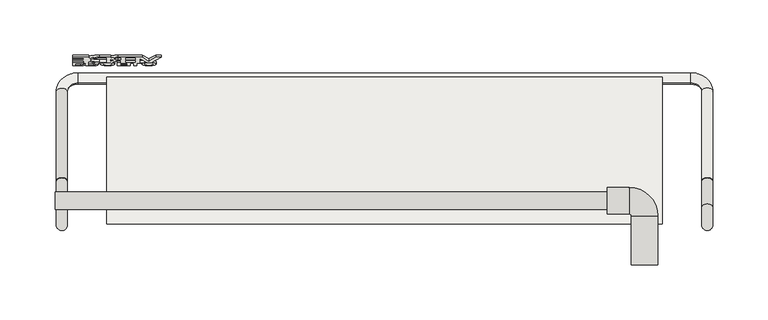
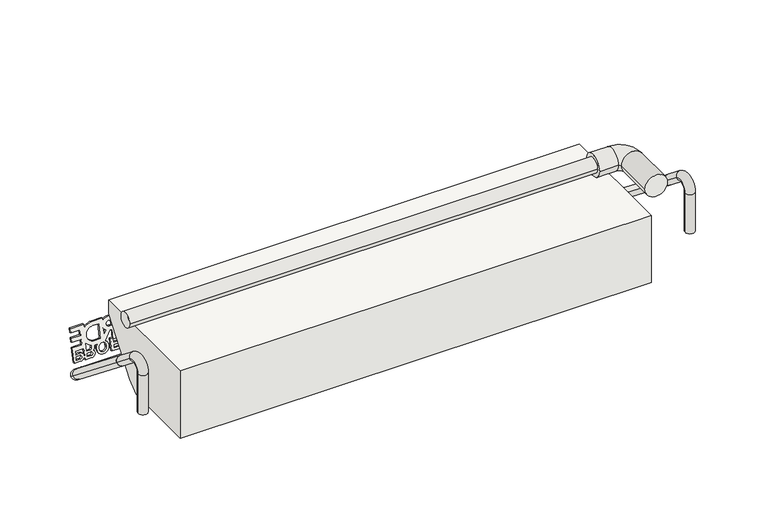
"""IFC4 building model written with IfcOpenShell, lengths in millimetres: covering geometry, panel VP Modulo prova ultima texture : panel VP Modulo prova ultima texture."""

from ifc_helpers import new_model, si_unit, point, frame, frame_2d, origin, place, context, project, spatial, polyline, circle_curve, ellipse_curve, trimmed, segment, composite_curve, outline, extrude, source, transform, mapped, element, save
from ifc_brep_helpers import plane_surface, cylinder_surface, revolved_surface, advanced_brep


def covering_4e535264(model_context):
    return source(origin(), model_context, "Body", "SolidModel", [
        extrude(outline(composite_curve([segment(polyline([(34.7220757, 1e-07), (58.7996812, 1e-07)]), True, "CONTINUOUS"), segment(trimmed(circle_curve(frame_2d((65.0642789, 0.6025231)), 6.293506), [point((58.7996812, 1e-07))], [point((63.4156114, 6.6762463))], False, "CARTESIAN"), True, "CONTINUOUS"), segment(trimmed(circle_curve(frame_2d((65.6666706, 0.6823429)), 6.4026671), [point((63.4156114, 6.6762463))], [point((68.2653756, -5.1692277))], False, "CARTESIAN"), True, "CONTINUOUS"), segment(trimmed(circle_curve(frame_2d((65.2033193, 0.2002614)), 6.1812298), [point((68.2653756, -5.1692277))], [point((64.2093265, -5.9005239))], False, "CARTESIAN"), True, "CONTINUOUS"), segment(polyline([(64.2093265, -5.9005239), (66.3168222, -11.0476865), (75.8016953, -7.1641235), (76.8622809, -9.7544045), (66.3136896, -14.0735049), (67.4636632, -16.8820993), (78.0122545, -12.5629989), (79.07284, -15.15328), (68.5242487, -19.4723803), (70.7348079, -24.8712558), (61.6931831, -28.5733316), (62.6270622, -30.8541559), (73.0748749, -33.0832315)]), True, "CONTINUOUS"), segment(trimmed(circle_curve(frame_2d((79.2445531, -34.0648778)), 6.247284), [point((73.0748749, -33.0832315))], [point((77.6263487, -28.0308102))], False, "CARTESIAN"), True, "CONTINUOUS"), segment(trimmed(circle_curve(frame_2d((79.8774079, -34.0247136)), 6.4026671), [point((77.6263487, -28.0308102))], [point((82.4790997, -39.8749568))], False, "CARTESIAN"), True, "CONTINUOUS"), segment(trimmed(circle_curve(frame_2d((79.4067187, -34.4842118)), 6.2048092), [point((82.4790997, -39.8749568))], [point((77.0112196, -40.2079554))], False, "CARTESIAN"), True, "CONTINUOUS"), segment(polyline([(77.0112196, -40.2079554), (78.1993614, -43.1097684)]), True, "CONTINUOUS"), segment(trimmed(circle_curve(frame_2d((66.5130173, -47.6019204)), 12.5199867), [point((78.1993614, -43.1097684))], [point((78.4709527, -43.8927629))], False, "CARTESIAN"), True, "CONTINUOUS"), segment(polyline([(78.4709527, -43.8927629), (79.5384705, -43.4513168)]), True, "CONTINUOUS"), segment(trimmed(circle_curve(frame_2d((81.1236563, -46.5289178)), 3.4618554), [point((79.5384705, -43.4513168))], [point((83.2640667, -43.8080566))], False, "CARTESIAN"), True, "CONTINUOUS"), segment(trimmed(circle_curve(frame_2d((86.9930545, -44.5041076)), 3.7933939), [point((83.2640667, -43.8080566))], [point((90.5427254, -43.1663205))], False, "CARTESIAN"), True, "CONTINUOUS"), segment(polyline([(90.5427254, -43.1663205), (93.2835773, -49.8603364), (82.734986, -54.1794368), (86.0955187, -62.3869066), (89.2825225, -61.0819941), (87.602256, -56.9782588)]), True, "CONTINUOUS"), segment(trimmed(circle_curve(frame_2d((91.2496311, -55.4763574)), 3.9444966), [point((87.602256, -56.9782588))], [point((87.6394876, -53.887044))], False, "CARTESIAN"), True, "CONTINUOUS"), segment(trimmed(circle_curve(frame_2d((91.0795376, -55.4029608)), 3.7592483), [point((87.6394876, -53.887044))], [point((89.8068056, -51.8657159))], False, "CARTESIAN"), True, "CONTINUOUS"), segment(trimmed(circle_curve(frame_2d((91.3826275, -55.3791794)), 3.8506675), [point((89.8068056, -51.8657159))], [point((94.9638436, -53.9640713))], False, "CARTESIAN"), True, "CONTINUOUS"), segment(polyline([(94.9638436, -53.9640713), (97.7046956, -60.6580873), (83.1186526, -66.6303145), (79.3291227, -57.3750995), (74.3249247, -59.4240587), (78.1144546, -68.6792737), (74.0770029, -70.3324005), (70.287473, -61.0771855), (65.283275, -63.1261447), (69.0728049, -72.3813597), (65.0353532, -74.0344865), (59.5536494, -60.6464546), (63.573194, -59.0006598)]), True, "CONTINUOUS"), segment(trimmed(circle_curve(frame_2d((67.4307017, -47.2531671)), 12.364625), [point((63.573194, -59.0006598))], [point((55.9786181, -51.9151122))], False, "CARTESIAN"), True, "CONTINUOUS"), segment(polyline([(55.9786181, -51.9151122), (51.9745895, -42.1360245), (54.8949193, -40.940301)]), True, "CONTINUOUS"), segment(trimmed(circle_curve(frame_2d((56.8950263, -33.2916254)), 7.9058629), [point((54.8949193, -40.940301))], [point((49.6285765, -36.4063284))], False, "CARTESIAN"), True, "CONTINUOUS"), segment(polyline([(49.6285765, -36.4063284), (41.306864, -16.0821087), (53.1289126, -4.45118), (36.5446028, -4.4511801), (34.7220757, 1e-07)]), True, "CONTINUOUS")], self_intersect=False), holes=[composite_curve([segment(polyline([(91.3698144, -60.2273564), (94.5568181, -58.9224439), (93.0429626, -55.2251362)]), True, "CONTINUOUS"), segment(trimmed(circle_curve(frame_2d((91.4494607, -55.8775925)), 1.7219023), [point((93.0429626, -55.2251362))], [point((89.8559588, -56.5300487))], True, "CARTESIAN"), True, "CONTINUOUS"), segment(polyline([(89.8559588, -56.5300487), (91.3698144, -60.2273564)]), True, "CONTINUOUS")], self_intersect=False), composite_curve([segment(polyline([(77.6536646, -53.2354383), (84.8614042, -50.2842432), (83.4804082, -46.9114198)]), True, "CONTINUOUS"), segment(trimmed(circle_curve(frame_2d((82.0055188, -47.9798171)), 1.8212006), [point((83.4804082, -46.9114198))], [point((81.4459172, -46.2467223))], True, "CARTESIAN"), True, "CONTINUOUS"), segment(polyline([(81.4459172, -46.2467223), (79.005401, -46.7813864)]), True, "CONTINUOUS"), segment(trimmed(circle_curve(frame_2d((66.800009, -47.5936694)), 12.2323913), [point((79.005401, -46.7813864))], [point((77.6536646, -53.2354383))], False, "CARTESIAN"), True, "CONTINUOUS")], self_intersect=False), composite_curve([segment(polyline([(80.0469884, -37.8463889), (81.818283, -37.1211357)]), True, "CONTINUOUS"), segment(trimmed(circle_curve(frame_2d((80.3714598, -33.8224141)), 3.6020635), [point((81.818283, -37.1211357))], [point((79.0874461, -30.4569764))], True, "CARTESIAN"), True, "CONTINUOUS"), segment(polyline([(79.0874461, -30.4569764), (77.318043, -31.1814551)]), True, "CONTINUOUS"), segment(trimmed(circle_curve(frame_2d((78.7640582, -34.4805345)), 3.6020668), [point((77.318043, -31.1814551))], [point((80.0469884, -37.8463889))], True, "CARTESIAN"), True, "CONTINUOUS")], self_intersect=False), composite_curve([segment(polyline([(64.8767089, 4.25008), (63.1073057, 3.5256013)]), True, "CONTINUOUS"), segment(trimmed(circle_curve(frame_2d((64.5533209, 0.2265218)), 3.6020668), [point((63.1073057, 3.5256013))], [point((65.8362511, -3.1393325))], True, "CARTESIAN"), True, "CONTINUOUS"), segment(polyline([(65.8362511, -3.1393325), (67.6075457, -2.4140793)]), True, "CONTINUOUS"), segment(trimmed(circle_curve(frame_2d((66.1607226, 0.8846424)), 3.6020635), [point((67.6075457, -2.4140793))], [point((64.8767089, 4.25008))], True, "CARTESIAN"), True, "CONTINUOUS")], self_intersect=False), composite_curve([segment(polyline([(49.3862171, -14.3776131), (62.966359, -8.8172502), (61.7031824, -5.7321785), (62.543491, -5.3881158)]), True, "CONTINUOUS"), segment(trimmed(circle_curve(frame_2d((65.2914897, 0.489271)), 6.4880792), [point((62.543491, -5.3881158))], [point((60.2929854, -3.647168))], False, "CARTESIAN"), True, "CONTINUOUS"), segment(polyline([(60.2929854, -3.647168), (49.3862171, -14.3776131)]), True, "CONTINUOUS")], self_intersect=False), polyline([(47.5988019, -19.9351411), (50.9593346, -28.1426109), (55.9635327, -26.0936517), (52.603, -17.8861818), (47.5988019, -19.9351411)]), polyline([(60.0009843, -24.4405249), (65.0051824, -22.3915657), (61.6446497, -14.1840958), (56.6404516, -16.2330551), (60.0009843, -24.4405249)]), composite_curve([segment(polyline([(52.6514048, -32.2754702), (53.692025, -34.8169896)]), True, "CONTINUOUS"), segment(trimmed(circle_curve(frame_2d((56.226554, -33.8697215)), 2.7057631), [point((53.692025, -34.8169896))], [point((58.6823171, -32.7337722))], True, "CARTESIAN"), True, "CONTINUOUS"), segment(polyline([(58.6823171, -32.7337722), (57.6557065, -30.2264686), (52.6514048, -32.2754702)]), True, "CONTINUOUS")], self_intersect=False), composite_curve([segment(polyline([(62.0018449, -38.0303841), (66.4600603, -36.2049764), (63.0935891, -35.4866796)]), True, "CONTINUOUS"), segment(trimmed(circle_curve(frame_2d((53.8245828, -33.0146099)), 9.5929977), [point((63.0935891, -35.4866796))], [point((62.0018449, -38.0303841))], False, "CARTESIAN"), True, "CONTINUOUS")], self_intersect=False), composite_curve([segment(polyline([(57.7042151, -44.6157146), (60.0160697, -50.2619853)]), True, "CONTINUOUS"), segment(trimmed(circle_curve(frame_2d((67.1061304, -47.5504315)), 7.5908816), [point((60.0160697, -50.2619853))], [point((74.0619175, -44.51094))], True, "CARTESIAN"), True, "CONTINUOUS"), segment(polyline([(74.0619175, -44.51094), (71.7500629, -38.8646693), (57.7042151, -44.6157146)]), True, "CONTINUOUS")], self_intersect=False), composite_curve([segment(polyline([(86.9486961, -49.4296056), (90.1356999, -48.124693), (88.6218444, -44.4273853)]), True, "CONTINUOUS"), segment(trimmed(circle_curve(frame_2d((87.0283424, -45.0798416)), 1.7219023), [point((88.6218444, -44.4273853))], [point((85.4348406, -45.7322979))], True, "CARTESIAN"), True, "CONTINUOUS"), segment(polyline([(85.4348406, -45.7322979), (86.9486961, -49.4296056)]), True, "CONTINUOUS")], self_intersect=False)]), frame((-189.083657, 210.3688908, 352.3284791), z_axis=(0.0, -0.9769248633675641, 0.21358326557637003), x_axis=(-0.3789159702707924, -0.19765659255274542, -0.9040766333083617)), (0.0, 0.0, 1.0), 2.0),
        extrude(outline(polyline([(76.2116946, -23.2064962), (79.3986984, -21.9015837), (77.1881392, -16.5027082), (79.2754311, -15.6480706), (82.5465758, -23.6372272), (70.9744162, -28.3754256), (69.9138306, -25.7851445), (74.1244027, -24.0611338), (71.9138436, -18.6622584), (74.0011355, -17.8076208), (76.2116946, -23.2064962)])), frame((-189.083657, 210.3688908, 352.3284791), z_axis=(0.0, -0.9769248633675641, 0.21358326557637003), x_axis=(-0.3789159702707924, -0.19765659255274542, -0.9040766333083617)), (0.0, 0.0, 1.0), 2.0),
        advanced_brep(
        [(-298.2404059, 63.5015434, 416.038463), (-298.2404059, 79.5015434, 416.038463), (201.5404059, 63.5015434, 416.038463), (201.5404059, 79.5015434, 416.038463), (201.5404059, 59.5015434, 416.038463), (201.5404059, 83.5015434, 416.038463), (221.5404059, 59.5015434, 416.038463), (221.5404059, 83.5015434, 416.038463), (223.5404059, 57.5015434, 416.038463), (247.5404059, 57.5015434, 416.038463), (223.5404059, 13.5015434, 416.038463), (247.5404059, 13.5015434, 416.038463)],
        [
            (0, 1, circle_curve(frame((-298.2404059, 71.5015434, 416.038463), z_axis=(-1.0, 0.0, 0.0), x_axis=(0.0, 1.0, 0.0)), 8.0)),
            (1, 0, circle_curve(frame((-298.2404059, 71.5015434, 416.038463), z_axis=(-1.0, 0.0, 0.0), x_axis=(0.0, 1.0, 0.0)), 8.0)),
            (0, 2),
            (2, 3, circle_curve(frame((201.5404059, 71.5015434, 416.038463), z_axis=(-1.0, 0.0, 0.0), x_axis=(0.0, 1.0, 0.0)), 8.0)),
            (3, 1),
            (3, 2, circle_curve(frame((201.5404059, 71.5015434, 416.038463), z_axis=(-1.0, 0.0, 0.0), x_axis=(0.0, 1.0, 0.0)), 8.0)),
            (4, 5, circle_curve(frame((201.5404059, 71.5015434, 416.038463), z_axis=(-1.0, 0.0, 0.0), x_axis=(0.0, 1.0, 0.0)), 12.0)),
            (5, 4, circle_curve(frame((201.5404059, 71.5015434, 416.038463), z_axis=(-1.0, 0.0, 0.0), x_axis=(0.0, 1.0, 0.0)), 12.0)),
            (4, 6),
            (6, 7, circle_curve(frame((221.5404059, 71.5015434, 416.038463), z_axis=(-1.0, 0.0, 0.0), x_axis=(0.0, 1.0, 0.0)), 12.0)),
            (7, 5),
            (7, 6, circle_curve(frame((221.5404059, 71.5015434, 416.038463), z_axis=(-1.0, 0.0, 0.0), x_axis=(0.0, 1.0, 0.0)), 12.0)),
            (6, 8, circle_curve(frame((221.5404059, 57.5015434, 416.038463), z_axis=(0.0, 0.0, -1.0), x_axis=(0.0, 1.0, 0.0)), 2.0)),
            (8, 9, circle_curve(frame((235.5404059, 57.5015434, 416.038463), z_axis=(0.0, 1.0, 0.0), x_axis=(1.0, 0.0, 0.0)), 12.0)),
            (9, 7, circle_curve(frame((221.5404059, 57.5015434, 416.038463), z_axis=(0.0, 0.0, 1.0), x_axis=(0.0, 1.0, 0.0)), 26.0)),
            (9, 8, circle_curve(frame((235.5404059, 57.5015434, 416.038463), z_axis=(0.0, 1.0, 0.0), x_axis=(1.0, 0.0, 0.0)), 12.0)),
            (10, 11, circle_curve(frame((235.5404059, 13.5015434, 416.038463), z_axis=(0.0, -1.0, 0.0), x_axis=(1.0, 0.0, 0.0)), 12.0)),
            (11, 10, circle_curve(frame((235.5404059, 13.5015434, 416.038463), z_axis=(0.0, -1.0, 0.0), x_axis=(1.0, 0.0, 0.0)), 12.0)),
            (8, 10),
            (11, 9),
        ],
        [
            plane_surface(frame((-298.2404059, 63.5015434, 416.038463), z_axis=(-1.0, 0.0, 0.0), x_axis=(0.0, 0.0, 1.0))),
            cylinder_surface(frame((-298.2404059, 71.5015434, 416.038463), z_axis=(-1.0, 0.0, 0.0), x_axis=(0.0, 1.0, 0.0)), 8.0),
            plane_surface(frame((201.5404059, 63.5015434, 416.038463), z_axis=(-1.0, 0.0, 0.0), x_axis=(0.0, 0.0, 1.0))),
            cylinder_surface(frame((201.5404059, 71.5015434, 416.038463), z_axis=(-1.0, 0.0, 0.0), x_axis=(0.0, 1.0, 0.0)), 12.0),
            revolved_surface(trimmed(ellipse_curve(frame((221.5404059, 71.5015434, 416.038463), z_axis=(-1.0, 0.0, 0.0), x_axis=(0.0, 1.0, 0.0)), 12.0, 12.0), [point((221.5404059, 59.5015434, 416.038463))], [point((221.5404059, 83.5015434, 416.038463))], True, "CARTESIAN"), (221.5404059, 57.5015434, 416.038463), (0.0, 0.0, -1.0)),
            revolved_surface(trimmed(ellipse_curve(frame((221.5404059, 71.5015434, 416.038463), z_axis=(-1.0, 0.0, 0.0), x_axis=(0.0, 1.0, 0.0)), 12.0, 12.0), [point((221.5404059, 83.5015434, 416.038463))], [point((221.5404059, 59.5015434, 416.038463))], True, "CARTESIAN"), (221.5404059, 57.5015434, 416.038463), (0.0, 0.0, -1.0)),
            plane_surface(frame((227.5404059, 13.5015434, 416.038463), z_axis=(0.0, -1.0, 0.0), x_axis=(0.0, 0.0, 1.0))),
            cylinder_surface(frame((235.5404059, 57.5015434, 416.038463), z_axis=(0.0, 1.0, 0.0), x_axis=(1.0, 0.0, 0.0)), 12.0),
        ],
        [
            (0, [[1, 2]]),
            (1, [[-1, 3, 4, 5]]),
            (1, [[-2, -5, 6, -3]]),
            (2, [[7, 8], [-4, -6]]),
            (3, [[-7, 9, 10, 11]]),
            (3, [[-8, -11, 12, -9]]),
            (4, [[-10, 13, 14, 15]]),
            (5, [[-12, -15, 16, -13]]),
            (6, [[17, 18]]),
            (7, [[-14, 19, -18, 20]]),
            (7, [[-16, -20, -17, -19]]),
        ],
    ),
        advanced_brep(
        [(297.2404059, 89.2250572, 356.8404048), (287.2404059, 89.2251428, 356.8405128), (297.2404059, 170.6491384, 292.3205598), (287.2404059, 170.6492239, 292.3206678), (277.2404059, 178.4869122, 286.1101411), (277.2404059, 186.324515, 279.8995064), (-277.2404059, 186.324515, 279.8995064), (-277.2404059, 178.4869122, 286.1101411), (-287.2404059, 170.6492239, 292.3206678), (-297.2404059, 170.6491384, 292.3205598), (-297.2404059, 89.2250494, 356.840411), (-287.2404059, 89.225135, 356.840519)],
        [
            (0, 1, circle_curve(frame((292.2404059, 89.2250572, 356.8404048), z_axis=(0.0, -0.7837688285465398, 0.6210526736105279), x_axis=(1.0, 0.0, 0.0)), 5.0)),
            (1, 0, circle_curve(frame((292.2404059, 89.2250572, 356.8404048), z_axis=(0.0, -0.7837688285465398, 0.6210526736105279), x_axis=(1.0, 0.0, 0.0)), 5.0)),
            (0, 2),
            (2, 3, circle_curve(frame((292.2404059, 170.6491384, 292.3205598), z_axis=(0.0, -0.7837688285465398, 0.6210526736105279), x_axis=(1.0, 0.0, 0.0)), 5.0)),
            (3, 1),
            (3, 2, circle_curve(frame((292.2404059, 170.6491384, 292.3205598), z_axis=(0.0, -0.7837688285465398, 0.6210526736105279), x_axis=(1.0, 0.0, 0.0)), 5.0)),
            (4, 3, circle_curve(frame((277.2404059, 170.6492239, 292.3206678), z_axis=(0.0, -0.6210526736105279, -0.7837688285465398), x_axis=(1.0, 0.0, 0.0)), 10.0)),
            (2, 5, circle_curve(frame((277.2404059, 170.6491384, 292.3205598), z_axis=(0.0, 0.6210526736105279, 0.7837688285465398), x_axis=(1.0, 0.0, 0.0)), 20.0)),
            (5, 4, circle_curve(frame((277.2404059, 182.4056708, 283.0047697), z_axis=(1.0, 0.0, 0.0), x_axis=(0.0, 0.7837688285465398, -0.6210526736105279)), 5.0)),
            (4, 5, circle_curve(frame((277.2404059, 182.4056708, 283.0047697), z_axis=(1.0, 0.0, 0.0), x_axis=(0.0, 0.7837688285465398, -0.6210526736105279)), 5.0)),
            (5, 6),
            (6, 7, circle_curve(frame((-277.2404059, 182.4056708, 283.0047697), z_axis=(1.0, 0.0, 0.0), x_axis=(0.0, 0.7837688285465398, -0.6210526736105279)), 5.0)),
            (7, 4),
            (7, 6, circle_curve(frame((-277.2404059, 182.4056708, 283.0047697), z_axis=(1.0, 0.0, 0.0), x_axis=(0.0, 0.7837688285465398, -0.6210526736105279)), 5.0)),
            (8, 7, circle_curve(frame((-277.2404059, 170.6492239, 292.3206678), z_axis=(0.0, -0.6210526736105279, -0.7837688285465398), x_axis=(0.0, 0.7837688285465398, -0.6210526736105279)), 10.0)),
            (6, 9, circle_curve(frame((-277.2404059, 170.6491384, 292.3205598), z_axis=(0.0, 0.6210526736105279, 0.7837688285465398), x_axis=(0.0, 0.7837688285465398, -0.6210526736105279)), 20.0)),
            (9, 8, circle_curve(frame((-292.2404059, 170.6491384, 292.3205598), z_axis=(0.0, 0.7837688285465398, -0.6210526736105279), x_axis=(-1.0000000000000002, 0.0, 0.0)), 5.0)),
            (8, 9, circle_curve(frame((-292.2404059, 170.6491384, 292.3205598), z_axis=(0.0, 0.7837688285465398, -0.6210526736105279), x_axis=(-1.0000000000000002, 0.0, 0.0)), 5.0)),
            (10, 11, circle_curve(frame((-292.2404059, 89.2250494, 356.840411), z_axis=(0.0, -0.7837688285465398, 0.6210526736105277), x_axis=(-1.0, 0.0, 0.0)), 5.0)),
            (11, 10, circle_curve(frame((-292.2404059, 89.2250494, 356.840411), z_axis=(0.0, -0.7837688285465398, 0.6210526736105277), x_axis=(-1.0, 0.0, 0.0)), 5.0)),
            (9, 10),
            (11, 8),
        ],
        [
            plane_surface(frame((287.2404059, 92.3304015, 360.7593511), z_axis=(0.0, -0.7837688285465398, 0.6210526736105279), x_axis=(0.0, -0.6210526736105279, -0.7837688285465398))),
            cylinder_surface(frame((292.2404059, 89.2250572, 356.8404048), z_axis=(0.0, -0.7837688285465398, 0.6210526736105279), x_axis=(1.0, 0.0, 0.0)), 5.0),
            revolved_surface(trimmed(ellipse_curve(frame((292.2404059, 170.6491384, 292.3205598), z_axis=(0.0, -0.7837688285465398, 0.6210526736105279), x_axis=(1.0, 0.0, 0.0)), 5.0, 5.0), [point((297.2404059, 170.6491384, 292.3205598))], [point((287.2404059, 170.6492239, 292.3206678))], True, "CARTESIAN"), (277.2404059, 173.7544827, 296.2395061), (0.0, 0.6210526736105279, 0.7837688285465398)),
            revolved_surface(trimmed(ellipse_curve(frame((292.2404059, 170.6491384, 292.3205598), z_axis=(0.0, -0.7837688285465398, 0.6210526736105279), x_axis=(1.0, 0.0, 0.0)), 5.0, 5.0), [point((287.2404059, 170.6492239, 292.3206678))], [point((297.2404059, 170.6491384, 292.3205598))], True, "CARTESIAN"), (277.2404059, 173.7544827, 296.2395061), (0.0, 0.6210526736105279, 0.7837688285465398)),
            cylinder_surface(frame((277.2404059, 182.4056708, 283.0047697), z_axis=(1.0000000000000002, 0.0, 0.0), x_axis=(0.0, 0.7837688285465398, -0.6210526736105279)), 5.0),
            revolved_surface(trimmed(ellipse_curve(frame((-277.2404059, 182.4056708, 283.0047697), z_axis=(1.0000000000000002, 0.0, 0.0), x_axis=(0.0, 0.7837688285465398, -0.6210526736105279)), 5.0, 5.0), [point((-277.2404059, 186.324515, 279.8995064))], [point((-277.2404059, 178.4869122, 286.1101411))], True, "CARTESIAN"), (-277.2404059, 173.7544827, 296.2395061), (0.0, 0.6210526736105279, 0.7837688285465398)),
            revolved_surface(trimmed(ellipse_curve(frame((-277.2404059, 182.4056708, 283.0047697), z_axis=(1.0000000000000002, 0.0, 0.0), x_axis=(0.0, 0.7837688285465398, -0.6210526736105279)), 5.0, 5.0), [point((-277.2404059, 178.4869122, 286.1101411))], [point((-277.2404059, 186.324515, 279.8995064))], True, "CARTESIAN"), (-277.2404059, 173.7544827, 296.2395061), (0.0, 0.6210526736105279, 0.7837688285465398)),
            plane_surface(frame((-287.2404059, 92.3303937, 360.7593573), z_axis=(0.0, -0.7837688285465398, 0.6210526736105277), x_axis=(0.0, -0.6210526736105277, -0.7837688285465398))),
            cylinder_surface(frame((-292.2404059, 170.6491384, 292.3205598), z_axis=(0.0, 0.7837688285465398, -0.6210526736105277), x_axis=(-1.0, 0.0, 0.0)), 5.0),
        ],
        [
            (0, [[1, 2]]),
            (1, [[-1, 3, 4, 5]]),
            (1, [[-2, -5, 6, -3]]),
            (2, [[7, -4, 8, 9]]),
            (3, [[-8, -6, -7, 10]]),
            (4, [[-9, 11, 12, 13]]),
            (4, [[-10, -13, 14, -11]]),
            (5, [[15, -12, 16, 17]]),
            (6, [[-16, -14, -15, 18]]),
            (7, [[19, 20]]),
            (8, [[-17, 21, -20, 22]]),
            (8, [[-18, -22, -19, -21]]),
        ],
    ),
        advanced_brep(
        [(-287.2404059, 89.225135, 356.840519), (-297.2404059, 89.225135, 356.840519), (-297.2404059, 65.7120701, 375.4720992), (-287.2404059, 65.7120701, 375.4720992), (-287.2404059, 49.5015434, 367.6344109), (-297.2404059, 49.5015434, 367.6344109), (-287.2404059, 49.5015434, 323.3322656), (-297.2404059, 49.5015434, 323.3322656)],
        [
            (0, 1, circle_curve(frame((-292.2404059, 89.225135, 356.840519), z_axis=(0.0, 0.7837688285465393, -0.6210526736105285), x_axis=(-1.0, 0.0, 0.0)), 5.0)),
            (1, 0, circle_curve(frame((-292.2404059, 89.225135, 356.840519), z_axis=(0.0, 0.7837688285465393, -0.6210526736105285), x_axis=(-1.0, 0.0, 0.0)), 5.0)),
            (1, 2),
            (2, 3, circle_curve(frame((-292.2404059, 65.7120701, 375.4720992), z_axis=(0.0, 0.7837688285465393, -0.6210526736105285), x_axis=(-1.0, 0.0, 0.0)), 5.0)),
            (3, 0),
            (3, 2, circle_curve(frame((-292.2404059, 65.7120701, 375.4720992), z_axis=(0.0, 0.7837688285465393, -0.6210526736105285), x_axis=(-1.0, 0.0, 0.0)), 5.0)),
            (4, 3, circle_curve(frame((-287.2404059, 59.5015434, 367.6344109), z_axis=(-1.0, 0.0, 0.0), x_axis=(0.0, 0.6210526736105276, 0.78376882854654)), 10.0)),
            (2, 5, circle_curve(frame((-297.2404059, 59.5015434, 367.6344109), z_axis=(1.0, 0.0, 0.0), x_axis=(0.0, 0.6210526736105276, 0.78376882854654)), 10.0)),
            (5, 4, circle_curve(frame((-292.2404059, 49.5015434, 367.6344109), z_axis=(0.0, 0.0, 1.0), x_axis=(-1.0, 0.0, 0.0)), 5.0)),
            (4, 5, circle_curve(frame((-292.2404059, 49.5015434, 367.6344109), z_axis=(0.0, 0.0, 1.0), x_axis=(-1.0, 0.0, 0.0)), 5.0)),
            (6, 7, circle_curve(frame((-292.2404059, 49.5015434, 323.3322656), z_axis=(0.0, 0.0, -1.0), x_axis=(-1.0, 0.0, 0.0)), 5.0)),
            (7, 6, circle_curve(frame((-292.2404059, 49.5015434, 323.3322656), z_axis=(0.0, 0.0, -1.0), x_axis=(-1.0, 0.0, 0.0)), 5.0)),
            (5, 7),
            (6, 4),
        ],
        [
            plane_surface(frame((-287.2404059, 89.225135, 356.840519), z_axis=(0.0, 0.7837688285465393, -0.6210526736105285), x_axis=(-1.0, 0.0, 0.0))),
            cylinder_surface(frame((-292.2404059, 89.225135, 356.840519), z_axis=(0.0, 0.7837688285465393, -0.6210526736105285), x_axis=(-1.0, 0.0, 0.0)), 5.0),
            revolved_surface(trimmed(ellipse_curve(frame((-292.2404059, 65.7120701, 375.4720992), z_axis=(0.0, 0.78376882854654, -0.6210526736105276), x_axis=(-1.0, 0.0, 0.0)), 5.0, 5.0), [point((-297.2404059, 65.7120701, 375.4720992))], [point((-287.2404059, 65.7120701, 375.4720992))], True, "CARTESIAN"), (-287.2404059, 59.5015434, 367.6344109), (1.0, 0.0, 0.0)),
            revolved_surface(trimmed(ellipse_curve(frame((-292.2404059, 65.7120701, 375.4720992), z_axis=(0.0, 0.78376882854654, -0.6210526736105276), x_axis=(-1.0, 0.0, 0.0)), 5.0, 5.0), [point((-287.2404059, 65.7120701, 375.4720992))], [point((-297.2404059, 65.7120701, 375.4720992))], True, "CARTESIAN"), (-287.2404059, 59.5015434, 367.6344109), (1.0, 0.0, 0.0)),
            plane_surface(frame((-287.2404059, 49.5015434, 323.3322656), z_axis=(0.0, 0.0, -1.0), x_axis=(-1.0, 0.0, 0.0))),
            cylinder_surface(frame((-292.2404059, 49.5015434, 367.6344109), z_axis=(0.0, 0.0, 1.0), x_axis=(-1.0, 0.0, 0.0)), 5.0),
        ],
        [
            (0, [[1, 2]]),
            (1, [[-2, 3, 4, 5]]),
            (1, [[-1, -5, 6, -3]]),
            (2, [[7, -4, 8, 9]]),
            (3, [[-8, -6, -7, 10]]),
            (4, [[11, 12]]),
            (5, [[-9, 13, -11, 14]]),
            (5, [[-10, -14, -12, -13]]),
        ],
    ),
        advanced_brep(
        [(287.2404059, 89.2251242, 356.8404893), (297.2404059, 89.2251242, 356.8404893), (287.2404059, 65.7120779, 375.472093), (297.2404059, 65.7120779, 375.472093), (297.2404059, 49.5015434, 367.6344109), (287.2404059, 49.5015434, 367.6344109), (287.2404059, 49.5015434, 323.3322656), (297.2404059, 49.5015434, 323.3322656)],
        [
            (0, 1, circle_curve(frame((292.2404059, 89.2251242, 356.8404893), z_axis=(0.0, 0.7837682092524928, -0.621053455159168), x_axis=(1.0, 0.0, 0.0)), 5.0)),
            (1, 0, circle_curve(frame((292.2404059, 89.2251242, 356.8404893), z_axis=(0.0, 0.7837682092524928, -0.621053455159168), x_axis=(1.0, 0.0, 0.0)), 5.0)),
            (0, 2),
            (2, 3, circle_curve(frame((292.2404059, 65.7120779, 375.472093), z_axis=(0.0, 0.7837682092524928, -0.621053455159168), x_axis=(1.0, 0.0, 0.0)), 5.0)),
            (3, 1),
            (3, 2, circle_curve(frame((292.2404059, 65.7120779, 375.472093), z_axis=(0.0, 0.7837682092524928, -0.621053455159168), x_axis=(1.0, 0.0, 0.0)), 5.0)),
            (4, 3, circle_curve(frame((297.2404059, 59.5015434, 367.6344109), z_axis=(-1.0, 0.0, 0.0), x_axis=(0.0, 0.6210534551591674, 0.7837682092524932)), 10.0)),
            (2, 5, circle_curve(frame((287.2404059, 59.5015434, 367.6344109), z_axis=(1.0, 0.0, 0.0), x_axis=(0.0, 0.6210534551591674, 0.7837682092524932)), 10.0)),
            (5, 4, circle_curve(frame((292.2404059, 49.5015434, 367.6344109), z_axis=(0.0, 0.0, 1.0), x_axis=(1.0, 0.0, 0.0)), 5.0)),
            (4, 5, circle_curve(frame((292.2404059, 49.5015434, 367.6344109), z_axis=(0.0, 0.0, 1.0), x_axis=(1.0, 0.0, 0.0)), 5.0)),
            (6, 7, circle_curve(frame((292.2404059, 49.5015434, 323.3322656), z_axis=(0.0, 0.0, -1.0), x_axis=(1.0, 0.0, 0.0)), 5.0)),
            (7, 6, circle_curve(frame((292.2404059, 49.5015434, 323.3322656), z_axis=(0.0, 0.0, -1.0), x_axis=(1.0, 0.0, 0.0)), 5.0)),
            (5, 6),
            (7, 4),
        ],
        [
            plane_surface(frame((287.2404059, 89.2251242, 356.8404893), z_axis=(0.0, 0.7837682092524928, -0.621053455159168), x_axis=(1.0, 0.0, 0.0))),
            cylinder_surface(frame((292.2404059, 89.2251242, 356.8404893), z_axis=(0.0, 0.7837682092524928, -0.621053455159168), x_axis=(1.0, 0.0, 0.0)), 5.0),
            revolved_surface(trimmed(ellipse_curve(frame((292.2404059, 65.7120779, 375.472093), z_axis=(0.0, 0.7837682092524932, -0.6210534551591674), x_axis=(1.0, 0.0, 0.0)), 5.0, 5.0), [point((287.2404059, 65.7120779, 375.472093))], [point((297.2404059, 65.7120779, 375.472093))], True, "CARTESIAN"), (287.2404059, 59.5015434, 367.6344109), (1.0, 0.0, 0.0)),
            revolved_surface(trimmed(ellipse_curve(frame((292.2404059, 65.7120779, 375.472093), z_axis=(0.0, 0.7837682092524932, -0.6210534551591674), x_axis=(1.0, 0.0, 0.0)), 5.0, 5.0), [point((297.2404059, 65.7120779, 375.472093))], [point((287.2404059, 65.7120779, 375.472093))], True, "CARTESIAN"), (287.2404059, 59.5015434, 367.6344109), (1.0, 0.0, 0.0)),
            plane_surface(frame((287.2404059, 49.5015434, 323.3322656), z_axis=(0.0, 0.0, -1.0), x_axis=(1.0, 0.0, 0.0))),
            cylinder_surface(frame((292.2404059, 49.5015434, 367.6344109), z_axis=(0.0, 0.0, 1.0), x_axis=(1.0, 0.0, 0.0)), 5.0),
        ],
        [
            (0, [[1, 2]]),
            (1, [[-1, 3, 4, 5]]),
            (1, [[-2, -5, 6, -3]]),
            (2, [[7, -4, 8, 9]]),
            (3, [[-8, -6, -7, 10]]),
            (4, [[11, 12]]),
            (5, [[-9, 13, -12, 14]]),
            (5, [[-10, -14, -11, -13]]),
        ],
    ),
        extrude(outline(polyline([(132.1625373, 278.3787994), (50.5015434, 278.3787994), (50.5015434, 354.3787994), (183.4941844, 354.3787994), (183.4941844, 338.7120762), (143.8388149, 288.666981), (132.1625373, 278.3787994)])), frame((-251.5404059, 0.0, 0.0), z_axis=(1.0, 0.0, 0.0), x_axis=(0.0, 1.0, 0.0)), (0.0, 0.0, 1.0), 503.0808119),
    ])


if __name__ == "__main__":
    model = new_model("IFC4")
    model_context = context("Model", 3, world=origin())
    ifc_project = project(units=[si_unit("LENGTHUNIT", "METRE", prefix="MILLI")], contexts=[model_context])
    site = spatial("IfcSite", under=ifc_project)
    building = spatial("IfcBuilding", under=site)
    placement = place(None, origin())
    covering_shape = covering_4e535264(model_context)
    element("IfcCovering", 1, ObjectType="panel VP Modulo prova ultima texture : panel VP Modulo prova ultima texture", at=placement, inside=building, context=model_context, shape_type="MappedRepresentation", body=[
        mapped(covering_shape, transform((0.0, 0.0, 0.0), x_axis=(1.0, 0.0, 0.0), y_axis=(0.0, 1.0, 0.0), z_axis=(0.0, 0.0, 1.0))),
    ])
    save(model, "model.ifc")
